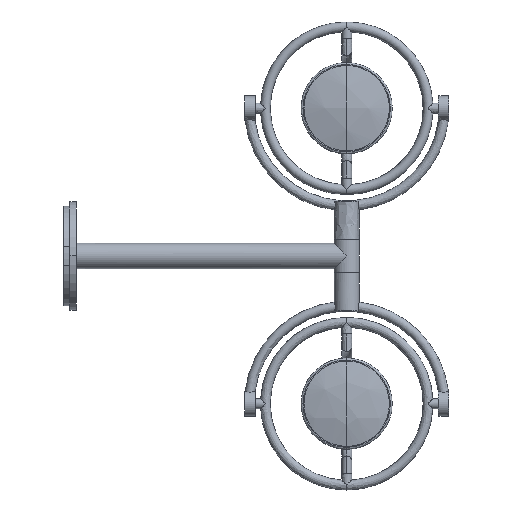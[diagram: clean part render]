
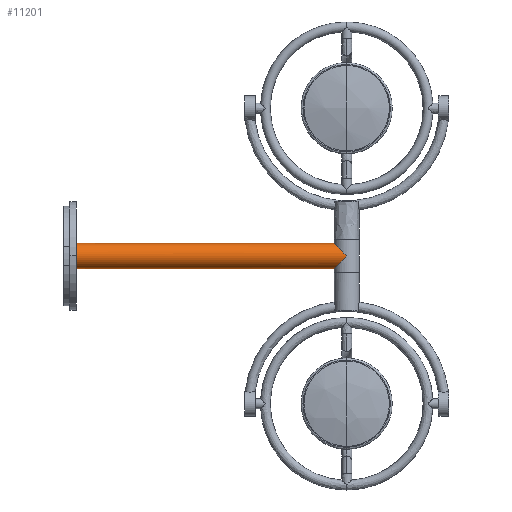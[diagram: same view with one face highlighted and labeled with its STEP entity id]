
A CAD part, top view. The second image highlights one B-rep face of the part: STEP entity #11201.
In plain terms, the highlighted cylindrical face has radius 13.5 mm (diameter 27 mm), a partial arc.
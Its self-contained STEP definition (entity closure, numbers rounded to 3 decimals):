
#3019=CARTESIAN_POINT('',(287.5,13.5,16.5));
#3020=VERTEX_POINT('',#3019);
#3021=CARTESIAN_POINT('',(13.5,13.5,16.5));
#3022=VERTEX_POINT('',#3021);
#3023=CARTESIAN_POINT('',(287.5,13.5,16.5));
#3024=DIRECTION('',(-1.0,0.0,0.0));
#3025=VECTOR('',#3024,274.);
#3026=LINE('',#3023,#3025);
#3027=EDGE_CURVE('',#3020,#3022,#3026,.T.);
#3038=CARTESIAN_POINT('',(287.5,-13.5,16.5));
#3039=VERTEX_POINT('',#3038);
#3047=CARTESIAN_POINT('',(13.5,-13.5,16.5));
#3048=VERTEX_POINT('',#3047);
#3049=CARTESIAN_POINT('',(13.5,-13.5,16.5));
#3050=DIRECTION('',(1.0,0.0,0.0));
#3051=VECTOR('',#3050,274.);
#3052=LINE('',#3049,#3051);
#3053=EDGE_CURVE('',#3048,#3039,#3052,.T.);
#5941=CARTESIAN_POINT('',(13.5,0.,16.5));
#5942=DIRECTION('',(1.0,0.0,0.0));
#5943=DIRECTION('',(0.0,0.0,-1.0));
#5944=AXIS2_PLACEMENT_3D('',#5941,#5942,#5943);
#5945=CIRCLE('',#5944,13.5);
#5946=EDGE_CURVE('',#3022,#3048,#5945,.T.);
#11146=CARTESIAN_POINT('',(301.,0.,30.));
#11147=VERTEX_POINT('',#11146);
#11148=CARTESIAN_POINT('',(301.,0.,16.5));
#11149=DIRECTION('',(-0.707,-0.707,0.));
#11150=DIRECTION('',(-0.707,0.707,0.));
#11151=AXIS2_PLACEMENT_3D('',#11148,#11149,#11150);
#11152=ELLIPSE('',#11151,19.092,13.5);
#11153=EDGE_CURVE('',#11147,#3020,#11152,.T.);
#11155=CARTESIAN_POINT('',(301.,0.,16.5));
#11156=DIRECTION('',(-0.707,0.707,0.));
#11157=DIRECTION('',(-0.707,-0.707,0.));
#11158=AXIS2_PLACEMENT_3D('',#11155,#11156,#11157);
#11159=ELLIPSE('',#11158,19.092,13.5);
#11160=EDGE_CURVE('',#3039,#11147,#11159,.T.);
#11189=CARTESIAN_POINT('',(301.,0.,16.5));
#11190=DIRECTION('',(-1.0,0.,0.));
#11191=DIRECTION('',(0.0,1.0,0.0));
#11192=AXIS2_PLACEMENT_3D('',#11189,#11190,#11191);
#11193=CYLINDRICAL_SURFACE('',#11192,13.5);
#11194=ORIENTED_EDGE('',*,*,#3027,.T.);
#11195=ORIENTED_EDGE('',*,*,#5946,.T.);
#11196=ORIENTED_EDGE('',*,*,#3053,.T.);
#11197=ORIENTED_EDGE('',*,*,#11160,.T.);
#11198=ORIENTED_EDGE('',*,*,#11153,.T.);
#11199=EDGE_LOOP('',(#11194,#11195,#11196,#11197,#11198));
#11200=FACE_OUTER_BOUND('',#11199,.T.);
#11201=ADVANCED_FACE('',(#11200),#11193,.T.);
